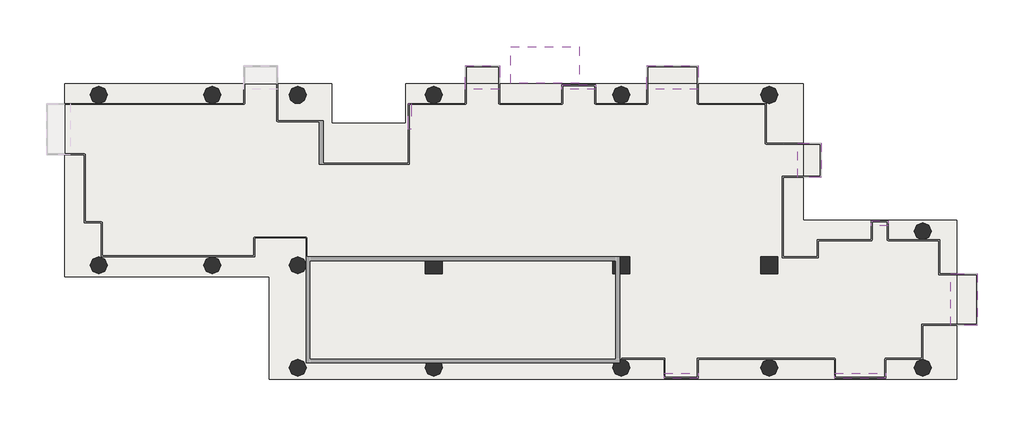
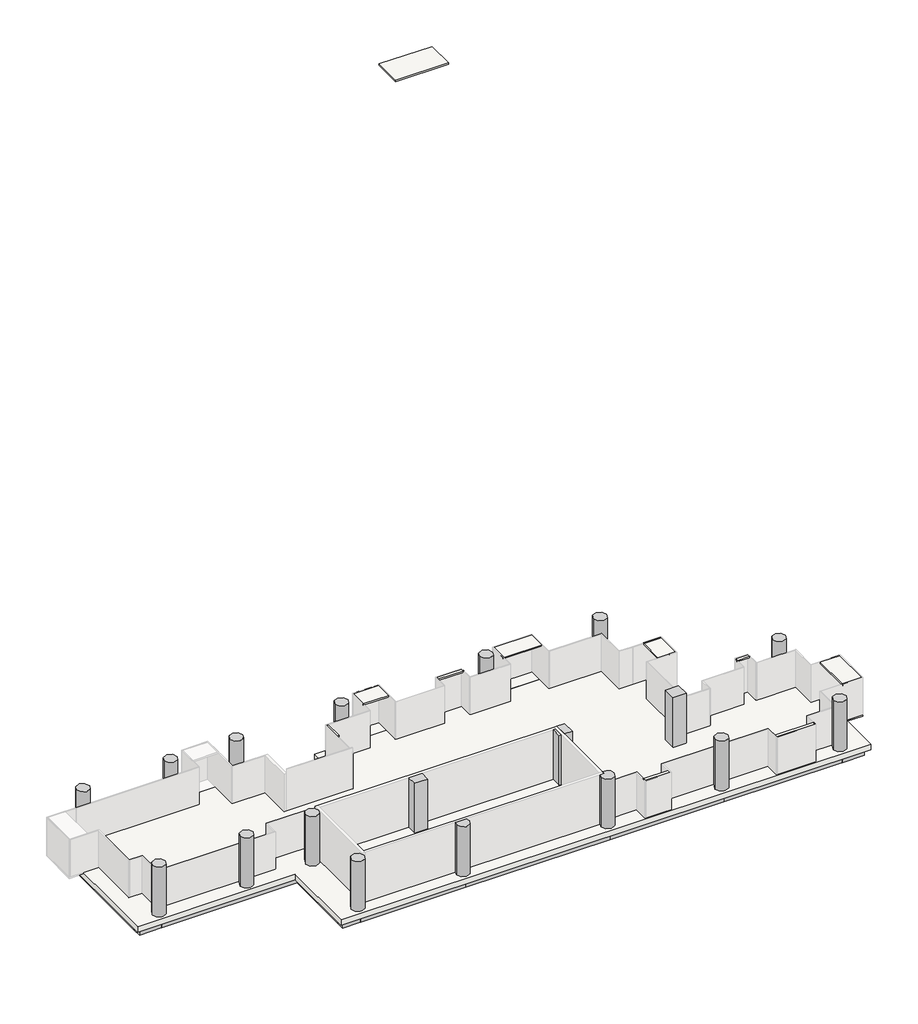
# One storey, part 2 of 2: 36 slabs, 25 beams, 18 columns.
"""IFC4 building model written with IfcOpenShell, lengths in millimetres."""

from ifc_helpers import new_model, si_unit, point, frame, frame_2d, origin, place, context, project, spatial, polyline, circle_curve, trimmed, segment, composite_curve, outline, extrude, transform, mapped, element, save
from ifc_brep_helpers import plane_surface, cylinder_surface, advanced_brep
from components import ajn_arc_ossature_rec_ba_700x600_5242ffbb, ajn_arc_ossature_rec_ba_700x600_213c05e2, ajn_arc_ossature_rec_ba_700x600_4d623bda, ajn_arc_ossature_rec_ba_700x600_c2a8f1af, ajn_arc_ossature_rec_ba_700x600_b2f97811, ajn_arc_ossature_rec_ba_700x600_e688680c, ajn_arc_ossature_rec_ba_700x600_8adee879, ajn_arc_ossature_rec_ba_700x600_6677e51c, ajn_arc_ossature_rec_ba_700x600_60e35d56, ajn_arc_ossature_rec_ba_700x600_9ae0f913, ajn_arc_ossature_rec_ba_700x600_5c14351b, ajn_arc_ossature_rec_ba_700x600_e883967f, ajn_arc_ossature_rec_ba_700x600_0984b03c, ajn_arc_ossature_rec_ba_700x600_78f846f2, ajn_arc_ossature_rec_ba_700x600_e869caa8, ajn_arc_ossature_rec_ba_700x600_0388eb48, ajn_arc_ossature_rec_ba_700x600_e143517c, ajn_arc_ossature_rec_ba_700x600_758f1bfa, ajn_arc_ossature_rec_ba_700x600_64ba80e1, ajn_arc_poteau_circulaire_a7b4f06c

model = new_model("IFC4")

# Units and contexts
model_context = context("Model", 3, world=origin())
ifc_project = project(units=[si_unit("LENGTHUNIT", "METRE", prefix="MILLI")], contexts=[model_context])

# Site, building, storey
site = spatial("IfcSite", under=ifc_project)
building = spatial("IfcBuilding", under=site)
storey = spatial("IfcBuildingStorey", under=building, Name="TW-L 05", Elevation=17199.9999686)

# Beams
placement = place(None, origin())
ajn_arc_ossature_rec_ba_700x600_shape = ajn_arc_ossature_rec_ba_700x600_5242ffbb(model_context)
element("IfcBeam", 1, ObjectType="AJN-ARC-OSSATURE REC-BA : 700x600", at=placement, inside=storey, context=model_context, shape_type="MappedRepresentation", body=[
    mapped(ajn_arc_ossature_rec_ba_700x600_shape, transform((119350.0, 39300.0, 16649.9999686), x_axis=(-1.0, 0.0, 0.0), y_axis=(0.0, -1.0, 0.0), z_axis=(0.0, 0.0, 1.0))),
])
ajn_arc_ossature_rec_ba_700x600_2_shape = ajn_arc_ossature_rec_ba_700x600_213c05e2(model_context)
element("IfcBeam", 2, ObjectType="AJN-ARC-OSSATURE REC-BA : 700x600", at=placement, inside=storey, context=model_context, shape_type="MappedRepresentation", body=[
    mapped(ajn_arc_ossature_rec_ba_700x600_2_shape, transform((100900.0, 34800.0, 16649.9999686), x_axis=(0.0, -1.0, 0.0), y_axis=(1.0, 0.0, 0.0), z_axis=(0.0, 0.0, 1.0))),
])
ajn_arc_ossature_rec_ba_700x600_3_shape = ajn_arc_ossature_rec_ba_700x600_4d623bda(model_context)
element("IfcBeam", 3, ObjectType="AJN-ARC-OSSATURE REC-BA : 700x600", at=placement, inside=storey, context=model_context, shape_type="MappedRepresentation", body=[
    mapped(ajn_arc_ossature_rec_ba_700x600_3_shape, transform((112150.0, 24900.0, 16649.9999686), x_axis=(1.0, 0.0, 0.0), y_axis=(0.0, 1.0, 0.0), z_axis=(0.0, 0.0, 1.0))),
])
ajn_arc_ossature_rec_ba_700x600_4_shape = ajn_arc_ossature_rec_ba_700x600_c2a8f1af(model_context)
element("IfcBeam", 4, ObjectType="AJN-ARC-OSSATURE REC-BA : 700x600", at=placement, inside=storey, context=model_context, shape_type="MappedRepresentation", body=[
    mapped(ajn_arc_ossature_rec_ba_700x600_4_shape, transform((116200.0, 24900.0, 16649.9999686), x_axis=(1.0, 0.0, 0.0), y_axis=(0.0, 1.0, 0.0), z_axis=(0.0, 0.0, 1.0))),
])
ajn_arc_ossature_rec_ba_700x600_5_shape = ajn_arc_ossature_rec_ba_700x600_b2f97811(model_context)
element("IfcBeam", 5, ObjectType="AJN-ARC-OSSATURE REC-BA : 700x600", at=placement, inside=storey, context=model_context, shape_type="MappedRepresentation", body=[
    mapped(ajn_arc_ossature_rec_ba_700x600_5_shape, transform((106900.0, 30300.0, 16649.9999686), x_axis=(1.0, 0.0, 0.0), y_axis=(0.0, 1.0, 0.0), z_axis=(0.0, 0.0, 1.0))),
])
ajn_arc_ossature_rec_ba_700x600_6_shape = ajn_arc_ossature_rec_ba_700x600_e688680c(model_context)
element("IfcBeam", 6, ObjectType="AJN-ARC-OSSATURE REC-BA : 700x600", at=placement, inside=storey, context=model_context, shape_type="MappedRepresentation", body=[
    mapped(ajn_arc_ossature_rec_ba_700x600_6_shape, transform((111700.0, 27600.0, 16649.9999686), x_axis=(0.0, -1.0, 0.0), y_axis=(1.0, 0.0, 0.0), z_axis=(0.0, 0.0, 1.0))),
])
ajn_arc_ossature_rec_ba_700x600_7_shape = ajn_arc_ossature_rec_ba_700x600_8adee879(model_context)
element("IfcBeam", 7, ObjectType="AJN-ARC-OSSATURE REC-BA : 700x600", at=placement, inside=storey, context=model_context, shape_type="MappedRepresentation", body=[
    mapped(ajn_arc_ossature_rec_ba_700x600_7_shape, transform((124750.0, 24900.0, 16649.9999686), x_axis=(1.0, 0.0, 0.0), y_axis=(0.0, 1.0, 0.0), z_axis=(0.0, 0.0, 1.0))),
])
element("IfcBeam", 8, ObjectType="AJN-ARC-OSSATURE REC-BA : 700x600", at=placement, inside=storey, context=model_context, shape_type="MappedRepresentation", body=[
    mapped(ajn_arc_ossature_rec_ba_700x600_7_shape, transform((124750.0, 39300.0, 16649.9999686), x_axis=(-1.0, 0.0, 0.0), y_axis=(0.0, -1.0, 0.0), z_axis=(0.0, 0.0, 1.0))),
])
ajn_arc_ossature_rec_ba_700x600_8_shape = ajn_arc_ossature_rec_ba_700x600_6677e51c(model_context)
element("IfcBeam", 9, ObjectType="AJN-ARC-OSSATURE REC-BA : 700x600", at=placement, inside=storey, context=model_context, shape_type="MappedRepresentation", body=[
    mapped(ajn_arc_ossature_rec_ba_700x600_8_shape, transform((133600.0, 24900.0, 16649.9999686), x_axis=(1.0, 0.0, 0.0), y_axis=(0.0, 1.0, 0.0), z_axis=(0.0, 0.0, 1.0))),
])
ajn_arc_ossature_rec_ba_700x600_9_shape = ajn_arc_ossature_rec_ba_700x600_60e35d56(model_context)
element("IfcBeam", 10, ObjectType="AJN-ARC-OSSATURE REC-BA : 700x600", at=placement, inside=storey, context=model_context, shape_type="MappedRepresentation", body=[
    mapped(ajn_arc_ossature_rec_ba_700x600_9_shape, transform((141550.0, 24900.0, 16649.9999686), x_axis=(1.0, 0.0, 0.0), y_axis=(0.0, 1.0, 0.0), z_axis=(0.0, 0.0, 1.0))),
])
ajn_arc_ossature_rec_ba_700x600_10_shape = ajn_arc_ossature_rec_ba_700x600_9ae0f913(model_context)
element("IfcBeam", 11, ObjectType="AJN-ARC-OSSATURE REC-BA : 700x600", at=placement, inside=storey, context=model_context, shape_type="MappedRepresentation", body=[
    mapped(ajn_arc_ossature_rec_ba_700x600_10_shape, transform((146200.0, 24900.0, 16649.9999686), x_axis=(1.0, 0.0, 0.0), y_axis=(0.0, 1.0, 0.0), z_axis=(0.0, 0.0, 1.0))),
])
element("IfcBeam", 12, ObjectType="AJN-ARC-OSSATURE REC-BA : 700x600", at=placement, inside=storey, context=model_context, shape_type="MappedRepresentation", body=[
    mapped(ajn_arc_ossature_rec_ba_700x600_10_shape, transform((101500.0, 39300.0, 16649.9999686), x_axis=(-1.0, 0.0, 0.0), y_axis=(0.0, -1.0, 0.0), z_axis=(0.0, 0.0, 1.0))),
])
ajn_arc_ossature_rec_ba_700x600_11_shape = ajn_arc_ossature_rec_ba_700x600_5c14351b(model_context)
element("IfcBeam", 13, ObjectType="AJN-ARC-OSSATURE REC-BA : 700x600", at=placement, inside=storey, context=model_context, shape_type="MappedRepresentation", body=[
    mapped(ajn_arc_ossature_rec_ba_700x600_11_shape, transform((146800.0, 28500.0, 16649.9999686), x_axis=(0.0, 1.0, 0.0), y_axis=(-1.0, 0.0, 0.0), z_axis=(0.0, 0.0, 1.0))),
])
element("IfcBeam", 14, ObjectType="AJN-ARC-OSSATURE REC-BA : 700x600", at=placement, inside=storey, context=model_context, shape_type="MappedRepresentation", body=[
    mapped(ajn_arc_ossature_rec_ba_700x600_11_shape, transform((138700.0, 35700.0, 16649.9999686), x_axis=(0.0, 1.0, 0.0), y_axis=(-1.0, 0.0, 0.0), z_axis=(0.0, 0.0, 1.0))),
])
ajn_arc_ossature_rec_ba_700x600_12_shape = ajn_arc_ossature_rec_ba_700x600_e883967f(model_context)
element("IfcBeam", 15, ObjectType="AJN-ARC-OSSATURE REC-BA : 700x600", at=placement, inside=storey, context=model_context, shape_type="MappedRepresentation", body=[
    mapped(ajn_arc_ossature_rec_ba_700x600_12_shape, transform((146200.0, 32100.0, 16649.9999686), x_axis=(-1.0, 0.0, 0.0), y_axis=(0.0, -1.0, 0.0), z_axis=(0.0, 0.0, 1.0))),
])
element("IfcBeam", 16, ObjectType="AJN-ARC-OSSATURE REC-BA : 700x600", at=placement, inside=storey, context=model_context, shape_type="MappedRepresentation", body=[
    mapped(ajn_arc_ossature_rec_ba_700x600_12_shape, transform((138100.0, 39300.0, 16649.9999686), x_axis=(-1.0, 0.0, 0.0), y_axis=(0.0, -1.0, 0.0), z_axis=(0.0, 0.0, 1.0))),
])
element("IfcBeam", 17, ObjectType="AJN-ARC-OSSATURE REC-BA : 700x600", at=placement, inside=storey, context=model_context, shape_type="MappedRepresentation", body=[
    mapped(ajn_arc_ossature_rec_ba_700x600_12_shape, transform((113200.0, 39300.0, 16649.9999686), x_axis=(-1.0, 0.0, 0.0), y_axis=(0.0, -1.0, 0.0), z_axis=(0.0, 0.0, 1.0))),
])
element("IfcBeam", 18, ObjectType="AJN-ARC-OSSATURE REC-BA : 700x600", at=placement, inside=storey, context=model_context, shape_type="MappedRepresentation", body=[
    mapped(ajn_arc_ossature_rec_ba_700x600_12_shape, transform((101500.0, 30300.0, 16649.9999686), x_axis=(1.0, 0.0, 0.0), y_axis=(0.0, 1.0, 0.0), z_axis=(0.0, 0.0, 1.0))),
])
ajn_arc_ossature_rec_ba_700x600_13_shape = ajn_arc_ossature_rec_ba_700x600_0984b03c(model_context)
element("IfcBeam", 19, ObjectType="AJN-ARC-OSSATURE REC-BA : 700x600", at=placement, inside=storey, context=model_context, shape_type="MappedRepresentation", body=[
    mapped(ajn_arc_ossature_rec_ba_700x600_13_shape, transform((142150.0, 32100.0, 16649.9999686), x_axis=(-1.0, 0.0, 0.0), y_axis=(0.0, -1.0, 0.0), z_axis=(0.0, 0.0, 1.0))),
])
ajn_arc_ossature_rec_ba_700x600_14_shape = ajn_arc_ossature_rec_ba_700x600_78f846f2(model_context)
element("IfcBeam", 20, ObjectType="AJN-ARC-OSSATURE REC-BA : 700x600", at=placement, inside=storey, context=model_context, shape_type="MappedRepresentation", body=[
    mapped(ajn_arc_ossature_rec_ba_700x600_14_shape, transform((133600.0, 39300.0, 16649.9999686), x_axis=(-1.0, 0.0, 0.0), y_axis=(0.0, -1.0, 0.0), z_axis=(0.0, 0.0, 1.0))),
])
ajn_arc_ossature_rec_ba_700x600_15_shape = ajn_arc_ossature_rec_ba_700x600_e869caa8(model_context)
element("IfcBeam", 21, ObjectType="AJN-ARC-OSSATURE REC-BA : 700x600", at=placement, inside=storey, context=model_context, shape_type="MappedRepresentation", body=[
    mapped(ajn_arc_ossature_rec_ba_700x600_15_shape, transform((118900.0, 38250.0, 16649.9999686), x_axis=(0.0, -1.0, 0.0), y_axis=(1.0, 0.0, 0.0), z_axis=(0.0, 0.0, 1.0))),
])
ajn_arc_ossature_rec_ba_700x600_16_shape = ajn_arc_ossature_rec_ba_700x600_0388eb48(model_context)
element("IfcBeam", 22, ObjectType="AJN-ARC-OSSATURE REC-BA : 700x600", at=placement, inside=storey, context=model_context, shape_type="MappedRepresentation", body=[
    mapped(ajn_arc_ossature_rec_ba_700x600_16_shape, transform((110350.0, 39300.0, 16649.9999686), x_axis=(-1.0, 0.0, 0.0), y_axis=(0.0, -1.0, 0.0), z_axis=(0.0, 0.0, 1.0))),
])
ajn_arc_ossature_rec_ba_700x600_17_shape = ajn_arc_ossature_rec_ba_700x600_e143517c(model_context)
element("IfcBeam", 23, ObjectType="AJN-ARC-OSSATURE REC-BA : 700x600", at=placement, inside=storey, context=model_context, shape_type="MappedRepresentation", body=[
    mapped(ajn_arc_ossature_rec_ba_700x600_17_shape, transform((105100.0, 39300.0, 16649.9999686), x_axis=(-1.0, 0.0, 0.0), y_axis=(0.0, -1.0, 0.0), z_axis=(0.0, 0.0, 1.0))),
])
ajn_arc_ossature_rec_ba_700x600_18_shape = ajn_arc_ossature_rec_ba_700x600_758f1bfa(model_context)
element("IfcBeam", 24, ObjectType="AJN-ARC-OSSATURE REC-BA : 700x600", at=placement, inside=storey, context=model_context, shape_type="MappedRepresentation", body=[
    mapped(ajn_arc_ossature_rec_ba_700x600_18_shape, transform((116350.0, 37200.0, 16649.9999686), x_axis=(-1.0, 0.0, 0.0), y_axis=(0.0, -1.0, 0.0), z_axis=(0.0, 0.0, 1.0))),
])
ajn_arc_ossature_rec_ba_700x600_19_shape = ajn_arc_ossature_rec_ba_700x600_64ba80e1(model_context)
element("IfcBeam", 25, ObjectType="AJN-ARC-OSSATURE REC-BA : 700x600", at=placement, inside=storey, context=model_context, shape_type="MappedRepresentation", body=[
    mapped(ajn_arc_ossature_rec_ba_700x600_19_shape, transform((113800.0, 38250.0, 16649.9999686), x_axis=(0.0, 1.0, 0.0), y_axis=(-1.0, 0.0, 0.0), z_axis=(0.0, 0.0, 1.0))),
])

# Columns
element("IfcColumn", 26, ObjectType="AJN-ARC-POTEAU CIRCULAIRE : ø90", at=placement, inside=storey, context=model_context, shape_type="SweptSolid", body=[
    extrude(outline(composite_curve([segment(trimmed(circle_curve(frame_2d((102100.0, 39300.0)), 450.0), [point((101650.0, 39300.0))], [point((102550.0, 39300.0))], False, "CARTESIAN"), True, "CONTINUOUS"), segment(trimmed(circle_curve(frame_2d((102100.0, 39300.0)), 450.0), [point((102550.0, 39300.0))], [point((101650.0, 39300.0))], False, "CARTESIAN"), True, "CONTINUOUS")], self_intersect=False)), frame((0.0, 0.0, 17199.9999686), z_axis=(0.0, 0.0, 1.0), x_axis=(1.0, 0.0, 0.0)), (0.0, 0.0, 1.0), 3600.0),
])
element("IfcColumn", 27, ObjectType="AJN-ARC-POTEAU CIRCULAIRE : ø90", at=placement, inside=storey, context=model_context, shape_type="SweptSolid", body=[
    extrude(outline(composite_curve([segment(trimmed(circle_curve(frame_2d((102100.0, 30300.0)), 450.0), [point((101650.0, 30300.0))], [point((102550.0, 30300.0))], False, "CARTESIAN"), True, "CONTINUOUS"), segment(trimmed(circle_curve(frame_2d((102100.0, 30300.0)), 450.0), [point((102550.0, 30300.0))], [point((101650.0, 30300.0))], False, "CARTESIAN"), True, "CONTINUOUS")], self_intersect=False)), frame((0.0, 0.0, 17199.9999686), z_axis=(0.0, 0.0, 1.0), x_axis=(1.0, 0.0, 0.0)), (0.0, 0.0, 1.0), 3600.0),
])
element("IfcColumn", 28, ObjectType="AJN-ARC-POTEAU CIRCULAIRE : ø90", at=placement, inside=storey, context=model_context, shape_type="SweptSolid", body=[
    extrude(outline(composite_curve([segment(trimmed(circle_curve(frame_2d((108100.0, 30300.0)), 450.0), [point((107650.0, 30300.0))], [point((108550.0, 30300.0))], False, "CARTESIAN"), True, "CONTINUOUS"), segment(trimmed(circle_curve(frame_2d((108100.0, 30300.0)), 450.0), [point((108550.0, 30300.0))], [point((107650.0, 30300.0))], False, "CARTESIAN"), True, "CONTINUOUS")], self_intersect=False)), frame((0.0, 0.0, 17199.9999686), z_axis=(0.0, 0.0, 1.0), x_axis=(1.0, 0.0, 0.0)), (0.0, 0.0, 1.0), 3600.0),
])
element("IfcColumn", 29, ObjectType="AJN-ARC-POTEAU CIRCULAIRE : ø90", at=placement, inside=storey, context=model_context, shape_type="SweptSolid", body=[
    extrude(outline(composite_curve([segment(trimmed(circle_curve(frame_2d((108100.0, 39300.0)), 450.0), [point((107650.0, 39300.0))], [point((108550.0, 39300.0))], False, "CARTESIAN"), True, "CONTINUOUS"), segment(trimmed(circle_curve(frame_2d((108100.0, 39300.0)), 450.0), [point((108550.0, 39300.0))], [point((107650.0, 39300.0))], False, "CARTESIAN"), True, "CONTINUOUS")], self_intersect=False)), frame((0.0, 0.0, 17199.9999686), z_axis=(0.0, 0.0, 1.0), x_axis=(1.0, 0.0, 0.0)), (0.0, 0.0, 1.0), 3600.0),
])
element("IfcColumn", 30, ObjectType="AJN-ARC-POTEAU CIRCULAIRE : ø90", at=placement, inside=storey, context=model_context, shape_type="SweptSolid", body=[
    extrude(outline(composite_curve([segment(trimmed(circle_curve(frame_2d((112600.0, 30300.0)), 450.0), [point((112150.0, 30300.0))], [point((113050.0, 30300.0))], False, "CARTESIAN"), True, "CONTINUOUS"), segment(trimmed(circle_curve(frame_2d((112600.0, 30300.0)), 450.0), [point((113050.0, 30300.0))], [point((112150.0, 30300.0))], False, "CARTESIAN"), True, "CONTINUOUS")], self_intersect=False)), frame((0.0, 0.0, 17199.9999686), z_axis=(0.0, 0.0, 1.0), x_axis=(1.0, 0.0, 0.0)), (0.0, 0.0, 1.0), 3600.0),
])
element("IfcColumn", 31, ObjectType="AJN-ARC-POTEAU CIRCULAIRE : ø90", at=placement, inside=storey, context=model_context, shape_type="SweptSolid", body=[
    extrude(outline(composite_curve([segment(trimmed(circle_curve(frame_2d((112600.0, 24900.0)), 450.0), [point((112150.0, 24900.0))], [point((113050.0, 24900.0))], False, "CARTESIAN"), True, "CONTINUOUS"), segment(trimmed(circle_curve(frame_2d((112600.0, 24900.0)), 450.0), [point((113050.0, 24900.0))], [point((112150.0, 24900.0))], False, "CARTESIAN"), True, "CONTINUOUS")], self_intersect=False)), frame((0.0, 0.0, 17199.9999686), z_axis=(0.0, 0.0, 1.0), x_axis=(1.0, 0.0, 0.0)), (0.0, 0.0, 1.0), 3600.0),
])
element("IfcColumn", 32, ObjectType="AJN-ARC-POTEAU CIRCULAIRE : ø90", at=placement, inside=storey, context=model_context, shape_type="SweptSolid", body=[
    extrude(outline(composite_curve([segment(trimmed(circle_curve(frame_2d((119800.0, 24900.0)), 450.0), [point((120250.0, 24900.0))], [point((119350.0, 24900.0))], False, "CARTESIAN"), True, "CONTINUOUS"), segment(trimmed(circle_curve(frame_2d((119800.0, 24900.0)), 450.0), [point((119350.0, 24900.0))], [point((119425.8342613, 25150.0))], False, "CARTESIAN"), True, "CONTINUOUS"), segment(polyline([(119425.8342613, 25150.0), (120174.1657387, 25150.0)]), True, "CONTINUOUS"), segment(trimmed(circle_curve(frame_2d((119800.0, 24900.0)), 450.0), [point((120174.1657387, 25150.0))], [point((120250.0, 24900.0))], False, "CARTESIAN"), True, "CONTINUOUS")], self_intersect=False)), frame((0.0, 0.0, 17199.9999686), z_axis=(0.0, 0.0, 1.0), x_axis=(1.0, 0.0, 0.0)), (0.0, 0.0, 1.0), 3600.0),
])
element("IfcColumn", 33, ObjectType="AJN-ARC-POTEAU CIRCULAIRE : ø90", at=placement, inside=storey, context=model_context, shape_type="SweptSolid", body=[
    extrude(outline(composite_curve([segment(trimmed(circle_curve(frame_2d((119800.0, 39300.0)), 450.0), [point((119350.0, 39300.0))], [point((120250.0, 39300.0))], False, "CARTESIAN"), True, "CONTINUOUS"), segment(trimmed(circle_curve(frame_2d((119800.0, 39300.0)), 450.0), [point((120250.0, 39300.0))], [point((119350.0, 39300.0))], False, "CARTESIAN"), True, "CONTINUOUS")], self_intersect=False)), frame((0.0, 0.0, 17199.9999686), z_axis=(0.0, 0.0, 1.0), x_axis=(1.0, 0.0, 0.0)), (0.0, 0.0, 1.0), 3600.0),
])
element("IfcColumn", 34, ObjectType="AJN-ARC-POTEAU CIRCULAIRE : ø90", at=placement, inside=storey, context=model_context, shape_type="SweptSolid", body=[
    extrude(outline(composite_curve([segment(trimmed(circle_curve(frame_2d((129700.0, 39300.0)), 450.0), [point((129250.0, 39300.0))], [point((130150.0, 39300.0))], False, "CARTESIAN"), True, "CONTINUOUS"), segment(trimmed(circle_curve(frame_2d((129700.0, 39300.0)), 450.0), [point((130150.0, 39300.0))], [point((129250.0, 39300.0))], False, "CARTESIAN"), True, "CONTINUOUS")], self_intersect=False)), frame((0.0, 0.0, 17199.9999686), z_axis=(0.0, 0.0, 1.0), x_axis=(1.0, 0.0, 0.0)), (0.0, 0.0, 1.0), 3600.0),
])
element("IfcColumn", 35, ObjectType="AJN-ARC-POTEAU CIRCULAIRE : ø90", at=placement, inside=storey, context=model_context, shape_type="SweptSolid", body=[
    extrude(outline(composite_curve([segment(trimmed(circle_curve(frame_2d((129700.0, 24900.0)), 450.0), [point((130150.0, 24900.0))], [point((129250.0, 24900.0))], False, "CARTESIAN"), True, "CONTINUOUS"), segment(trimmed(circle_curve(frame_2d((129700.0, 24900.0)), 450.0), [point((129250.0, 24900.0))], [point((129325.8342613, 25150.0))], False, "CARTESIAN"), True, "CONTINUOUS"), segment(polyline([(129325.8342613, 25150.0), (129600.0, 25150.0), (129600.0, 25338.7482194)]), True, "CONTINUOUS"), segment(trimmed(circle_curve(frame_2d((129700.0, 24900.0)), 450.0), [point((129600.0, 25338.7482194))], [point((130150.0, 24900.0))], False, "CARTESIAN"), True, "CONTINUOUS")], self_intersect=False)), frame((0.0, 0.0, 17199.9999686), z_axis=(0.0, 0.0, 1.0), x_axis=(1.0, 0.0, 0.0)), (0.0, 0.0, 1.0), 3600.0),
])
element("IfcColumn", 36, ObjectType="AJN-ARC-POTEAU CIRCULAIRE : ø90", at=placement, inside=storey, context=model_context, shape_type="SweptSolid", body=[
    extrude(outline(composite_curve([segment(trimmed(circle_curve(frame_2d((137500.0, 39300.0)), 450.0), [point((137050.0, 39300.0))], [point((137950.0, 39300.0))], False, "CARTESIAN"), True, "CONTINUOUS"), segment(trimmed(circle_curve(frame_2d((137500.0, 39300.0)), 450.0), [point((137950.0, 39300.0))], [point((137050.0, 39300.0))], False, "CARTESIAN"), True, "CONTINUOUS")], self_intersect=False)), frame((0.0, 0.0, 17199.9999686), z_axis=(0.0, 0.0, 1.0), x_axis=(1.0, 0.0, 0.0)), (0.0, 0.0, 1.0), 3600.0),
])
element("IfcColumn", 37, ObjectType="AJN-ARC-POTEAU CIRCULAIRE : ø90", at=placement, inside=storey, context=model_context, shape_type="SweptSolid", body=[
    extrude(outline(composite_curve([segment(trimmed(circle_curve(frame_2d((137500.0, 24900.0)), 450.0), [point((137050.0, 24900.0))], [point((137950.0, 24900.0))], False, "CARTESIAN"), True, "CONTINUOUS"), segment(trimmed(circle_curve(frame_2d((137500.0, 24900.0)), 450.0), [point((137950.0, 24900.0))], [point((137050.0, 24900.0))], False, "CARTESIAN"), True, "CONTINUOUS")], self_intersect=False)), frame((0.0, 0.0, 17199.9999686), z_axis=(0.0, 0.0, 1.0), x_axis=(1.0, 0.0, 0.0)), (0.0, 0.0, 1.0), 3600.0),
])
element("IfcColumn", 38, ObjectType="AJN-ARC-POTEAU CIRCULAIRE : ø90", at=placement, inside=storey, context=model_context, shape_type="SweptSolid", body=[
    extrude(outline(composite_curve([segment(trimmed(circle_curve(frame_2d((145600.0, 24900.0)), 450.0), [point((145150.0, 24900.0))], [point((146050.0, 24900.0))], False, "CARTESIAN"), True, "CONTINUOUS"), segment(trimmed(circle_curve(frame_2d((145600.0, 24900.0)), 450.0), [point((146050.0, 24900.0))], [point((145150.0, 24900.0))], False, "CARTESIAN"), True, "CONTINUOUS")], self_intersect=False)), frame((0.0, 0.0, 17199.9999686), z_axis=(0.0, 0.0, 1.0), x_axis=(1.0, 0.0, 0.0)), (0.0, 0.0, 1.0), 3600.0),
])
element("IfcColumn", 39, ObjectType="AJN-ARC-POTEAU CIRCULAIRE : ø90", at=placement, inside=storey, context=model_context, shape_type="AdvancedBrep", body=[
    advanced_brep(
    [(145150.0, 32100.0, 17199.9999686), (146050.0, 32100.0, 17199.9999686), (145638.6089983, 31651.6593424, 17199.9999686), (145561.3910017, 31651.6593424, 17199.9999686), (145150.0, 32100.0, 20799.9999686), (146050.0, 32100.0, 20799.9999686), (145561.3910017, 31651.6593424, 19899.9999686), (145638.6089983, 31651.6593424, 19899.9999686)],
    [
        (0, 1, circle_curve(frame((145600.0, 32100.0, 17199.9999686), z_axis=(0.0, 0.0, -1.0), x_axis=(1.0, 0.0, 0.0)), 450.0)),
        (1, 2, circle_curve(frame((145600.0, 32100.0, 17199.9999686), z_axis=(0.0, 0.0, -1.0), x_axis=(1.0, 0.0, 0.0)), 450.0)),
        (2, 3),
        (3, 0, circle_curve(frame((145600.0, 32100.0, 17199.9999686), z_axis=(0.0, 0.0, -1.0), x_axis=(1.0, 0.0, 0.0)), 450.0)),
        (0, 4),
        (4, 5, circle_curve(frame((145600.0, 32100.0, 20799.9999686), z_axis=(0.0, 0.0, -1.0), x_axis=(1.0, 0.0, 0.0)), 450.0)),
        (5, 1),
        (5, 4, circle_curve(frame((145600.0, 32100.0, 20799.9999686), z_axis=(0.0, 0.0, -1.0), x_axis=(1.0, 0.0, 0.0)), 450.0)),
        (3, 6),
        (6, 7, circle_curve(frame((145600.0, 32100.0, 19899.9999686), z_axis=(0.0, 0.0, 1.0), x_axis=(1.0, 0.0, 0.0)), 450.0)),
        (7, 2),
        (7, 6),
    ],
    [
        plane_surface(frame((146050.0, 32100.0, 17199.9999686), z_axis=(0.0, 0.0, -1.0), x_axis=(0.0, -1.0, 0.0))),
        cylinder_surface(frame((145600.0, 32100.0, 17199.9999686), z_axis=(0.0, 0.0, 1.0), x_axis=(1.0, 0.0, 0.0)), 450.0),
        plane_surface(frame((146050.0, 32100.0, 20799.9999686), z_axis=(0.0, 0.0, 1.0), x_axis=(0.0, 1.0, 0.0))),
        plane_surface(frame((146472.681474, 31651.6593424, 17199.9999686), z_axis=(0.0, -1.0, 0.0), x_axis=(-1.0, 0.0, 0.0))),
        plane_surface(frame((143797.755292, 31651.6593424, 19899.9999686), z_axis=(0.0, 0.0, -1.0), x_axis=(0.0, -1.0, 0.0))),
    ],
    [
        (0, [[1, 2, 3, 4]]),
        (1, [[-1, 5, 6, 7]]),
        (1, [[-7, 8, -5, -4, 9, 10, 11, -2]]),
        (2, [[-6, -8]]),
        (3, [[12, -9, -3, -11]]),
        (4, [[-12, -10]]),
    ],
),
])
ajn_arc_poteau_circulaire_shape = ajn_arc_poteau_circulaire_a7b4f06c(model_context)
element("IfcColumn", 40, ObjectType="AJN-ARC-POTEAU CIRCULAIRE : ø90", at=placement, inside=storey, context=model_context, shape_type="MappedRepresentation", body=[
    mapped(ajn_arc_poteau_circulaire_shape, transform((112600.0, 39300.0, 0.0), x_axis=(1.0, 0.0, 0.0), y_axis=(0.0, 1.0, 0.0), z_axis=(0.0, 0.0, 1.0))),
])
element("IfcColumn", 41, ObjectType="AJN-ARC-POTEAU RECTANGULAIRE : 900 mm x 900 mm", at=placement, inside=storey, context=model_context, shape_type="SweptSolid", body=[
    extrude(outline(polyline([(137950.0, 30750.0), (137950.0, 29850.0), (137050.0, 29850.0), (137050.0, 30750.0), (137950.0, 30750.0)])), frame((0.0, 0.0, 17199.9999686), z_axis=(0.0, 0.0, 1.0), x_axis=(1.0, 0.0, 0.0)), (0.0, 0.0, 1.0), 3600.0),
])
element("IfcColumn", 42, ObjectType="AJN-ARC-POTEAU RECTANGULAIRE : 900 mm x 900 mm", at=placement, inside=storey, context=model_context, shape_type="SweptSolid", body=[
    extrude(outline(polyline([(129400.0, 29850.0), (129250.0, 29850.0), (129250.0, 30550.0), (129400.0, 30550.0), (129400.0, 29850.0)])), frame((0.0, 0.0, 17199.9999686), z_axis=(0.0, 0.0, 1.0), x_axis=(1.0, 0.0, 0.0)), (0.0, 0.0, 1.0), 3600.0),
    extrude(outline(polyline([(130150.0, 30750.0), (130150.0, 29850.0), (129600.0, 29850.0), (129600.0, 30750.0), (130150.0, 30750.0)])), frame((0.0, 0.0, 17199.9999686), z_axis=(0.0, 0.0, 1.0), x_axis=(1.0, 0.0, 0.0)), (0.0, 0.0, 1.0), 3600.0),
])
element("IfcColumn", 43, ObjectType="AJN-ARC-POTEAU RECTANGULAIRE : 900 mm x 900 mm", at=placement, inside=storey, context=model_context, shape_type="SweptSolid", body=[
    extrude(outline(polyline([(120250.0, 29850.0), (119350.0, 29850.0), (119350.0, 30550.0), (120250.0, 30550.0), (120250.0, 29850.0)])), frame((0.0, 0.0, 17199.9999686), z_axis=(0.0, 0.0, 1.0), x_axis=(1.0, 0.0, 0.0)), (0.0, 0.0, 1.0), 3600.0),
])

# Slabs
element("IfcSlab", 44, ObjectType="AJN-ARC-SLAB-10cm", at=placement, inside=storey, context=model_context, shape_type="SweptSolid", body=[
    extrude(outline(polyline([(148497.681474, 27150.7949131), (147400.0, 27150.7949131), (147400.0, 29850.7949131), (148497.681474, 29850.7949131), (148497.681474, 27150.7949131)])), frame((0.0, 0.0, 17099.9999686), z_axis=(0.0, 0.0, 1.0), x_axis=(1.0, 0.0, 0.0)), (0.0, 0.0, 1.0), 100.0),
])
element("IfcSlab", 45, ObjectType="AJN-ARC-SLAB-10cm", at=placement, inside=storey, context=model_context, shape_type="SweptSolid", body=[
    extrude(outline(polyline([(140250.0, 34950.0), (139300.0, 34950.0), (139300.0, 36750.0), (140250.0, 36750.0), (140250.0, 34950.0)])), frame((0.0, 0.0, 17099.9999686), z_axis=(0.0, 0.0, 1.0), x_axis=(1.0, 0.0, 0.0)), (0.0, 0.0, 1.0), 100.0),
])
element("IfcSlab", 46, ObjectType="AJN-ARC-SLAB-10cm", at=placement, inside=storey, context=model_context, shape_type="SweptSolid", body=[
    extrude(outline(polyline([(133750.0, 39900.0), (131050.0, 39900.0), (131050.0, 40850.0), (133750.0, 40850.0), (133750.0, 39900.0)])), frame((0.0, 0.0, 17099.9999686), z_axis=(0.0, 0.0, 1.0), x_axis=(1.0, 0.0, 0.0)), (0.0, 0.0, 1.0), 100.0),
])
element("IfcSlab", 47, ObjectType="AJN-ARC-SLAB-10cm", at=placement, inside=storey, context=model_context, shape_type="SweptSolid", body=[
    extrude(outline(polyline([(123263.0639015, 39900.0), (121463.0639015, 39900.0), (121463.0639015, 40850.0), (123263.0639015, 40850.0), (123263.0639015, 39900.0)])), frame((0.0, 0.0, 17099.9999686), z_axis=(0.0, 0.0, 1.0), x_axis=(1.0, 0.0, 0.0)), (0.0, 0.0, 1.0), 100.0),
])
element("IfcSlab", 48, ObjectType="AJN-ARC-SLAB-10cm", at=placement, inside=storey, context=model_context, shape_type="SweptSolid", body=[
    extrude(outline(polyline([(123263.0639015, 39900.0), (121463.0639015, 39900.0), (121463.0639015, 40850.0), (123263.0639015, 40850.0), (123263.0639015, 39900.0)])), frame((0.0, 0.0, 17099.9999686), z_axis=(0.0, 0.0, 1.0), x_axis=(1.0, 0.0, 0.0)), (0.0, 0.0, 1.0), 100.0),
])
element("IfcSlab", 49, ObjectType="AJN-ARC-SLAB-10cm", at=placement, inside=storey, context=model_context, shape_type="SweptSolid", body=[
    extrude(outline(polyline([(123263.0639015, 39900.0), (121463.0639015, 39900.0), (121463.0639015, 40850.0), (123263.0639015, 40850.0), (123263.0639015, 39900.0)])), frame((0.0, 0.0, 17099.9999686), z_axis=(0.0, 0.0, 1.0), x_axis=(1.0, 0.0, 0.0)), (0.0, 0.0, 1.0), 100.0),
])
element("IfcSlab", 50, ObjectType="AJN-ARC-SLAB-10cm", at=placement, inside=storey, context=model_context, shape_type="SweptSolid", body=[
    extrude(outline(polyline([(123263.0639015, 39900.0), (121463.0639015, 39900.0), (121463.0639015, 40850.0), (123263.0639015, 40850.0), (123263.0639015, 39900.0)])), frame((0.0, 0.0, 17099.9999686), z_axis=(0.0, 0.0, 1.0), x_axis=(1.0, 0.0, 0.0)), (0.0, 0.0, 1.0), 100.0),
])
element("IfcSlab", 51, ObjectType="AJN-ARC-SLAB-10cm", at=placement, inside=storey, context=model_context, shape_type="SweptSolid", body=[
    extrude(outline(polyline([(123263.0639015, 39900.0), (121463.0639015, 39900.0), (121463.0639015, 40850.0), (123263.0639015, 40850.0), (123263.0639015, 39900.0)])), frame((0.0, 0.0, 17099.9999686), z_axis=(0.0, 0.0, 1.0), x_axis=(1.0, 0.0, 0.0)), (0.0, 0.0, 1.0), 100.0),
])
element("IfcSlab", 52, ObjectType="AJN-ARC-SLAB-10cm", at=placement, inside=storey, context=model_context, shape_type="SweptSolid", body=[
    extrude(outline(polyline([(123263.0639015, 39900.0), (121463.0639015, 39900.0), (121463.0639015, 40850.0), (123263.0639015, 40850.0), (123263.0639015, 39900.0)])), frame((0.0, 0.0, 17099.9999686), z_axis=(0.0, 0.0, 1.0), x_axis=(1.0, 0.0, 0.0)), (0.0, 0.0, 1.0), 100.0),
])
element("IfcSlab", 53, ObjectType="AJN-ARC-SLAB-10cm", at=placement, inside=storey, context=model_context, shape_type="SweptSolid", body=[
    extrude(outline(polyline([(123263.0639015, 39900.0), (121463.0639015, 39900.0), (121463.0639015, 40850.0), (123263.0639015, 40850.0), (123263.0639015, 39900.0)])), frame((0.0, 0.0, 17099.9999686), z_axis=(0.0, 0.0, 1.0), x_axis=(1.0, 0.0, 0.0)), (0.0, 0.0, 1.0), 100.0),
])
element("IfcSlab", 54, ObjectType="AJN-ARC-SLAB-10cm", at=placement, inside=storey, context=model_context, shape_type="SweptSolid", body=[
    extrude(outline(polyline([(123263.0639015, 39900.0), (121463.0639015, 39900.0), (121463.0639015, 40850.0), (123263.0639015, 40850.0), (123263.0639015, 39900.0)])), frame((0.0, 0.0, 17099.9999686), z_axis=(0.0, 0.0, 1.0), x_axis=(1.0, 0.0, 0.0)), (0.0, 0.0, 1.0), 100.0),
])
element("IfcSlab", 55, ObjectType="AJN-ARC-SLAB-10cm", at=placement, inside=storey, context=model_context, shape_type="SweptSolid", body=[
    extrude(outline(polyline([(123263.0639015, 39900.0), (121463.0639015, 39900.0), (121463.0639015, 40850.0), (123263.0639015, 40850.0), (123263.0639015, 39900.0)])), frame((0.0, 0.0, 17099.9999686), z_axis=(0.0, 0.0, 1.0), x_axis=(1.0, 0.0, 0.0)), (0.0, 0.0, 1.0), 100.0),
])
element("IfcSlab", 56, ObjectType="AJN-ARC-SLAB-10cm", at=placement, inside=storey, context=model_context, shape_type="SweptSolid", body=[
    extrude(outline(polyline([(123263.0639015, 39900.0), (121463.0639015, 39900.0), (121463.0639015, 40850.0), (123263.0639015, 40850.0), (123263.0639015, 39900.0)])), frame((0.0, 0.0, 17099.9999686), z_axis=(0.0, 0.0, 1.0), x_axis=(1.0, 0.0, 0.0)), (0.0, 0.0, 1.0), 100.0),
])
element("IfcSlab", 57, ObjectType="AJN-ARC-SLAB-10cm", at=placement, inside=storey, context=model_context, shape_type="SweptSolid", body=[
    extrude(outline(polyline([(123263.0639015, 39900.0), (121463.0639015, 39900.0), (121463.0639015, 40850.0), (123263.0639015, 40850.0), (123263.0639015, 39900.0)])), frame((0.0, 0.0, 17099.9999686), z_axis=(0.0, 0.0, 1.0), x_axis=(1.0, 0.0, 0.0)), (0.0, 0.0, 1.0), 100.0),
])
element("IfcSlab", 58, ObjectType="AJN-ARC-SLAB-10cm", at=placement, inside=storey, context=model_context, shape_type="SweptSolid", body=[
    extrude(outline(polyline([(123263.0639015, 39900.0), (121463.0639015, 39900.0), (121463.0639015, 40850.0), (123263.0639015, 40850.0), (123263.0639015, 39900.0)])), frame((0.0, 0.0, 17099.9999686), z_axis=(0.0, 0.0, 1.0), x_axis=(1.0, 0.0, 0.0)), (0.0, 0.0, 1.0), 100.0),
])
element("IfcSlab", 59, ObjectType="AJN-ARC-SLAB-10cm", at=placement, inside=storey, context=model_context, shape_type="SweptSolid", body=[
    extrude(outline(polyline([(123263.0639015, 39900.0), (121463.0639015, 39900.0), (121463.0639015, 40850.0), (123263.0639015, 40850.0), (123263.0639015, 39900.0)])), frame((0.0, 0.0, 17099.9999686), z_axis=(0.0, 0.0, 1.0), x_axis=(1.0, 0.0, 0.0)), (0.0, 0.0, 1.0), 100.0),
])
element("IfcSlab", 60, ObjectType="AJN-ARC-SLAB-10cm", at=placement, inside=storey, context=model_context, shape_type="SweptSolid", body=[
    extrude(outline(polyline([(123263.0639015, 39900.0), (121463.0639015, 39900.0), (121463.0639015, 40850.0), (123263.0639015, 40850.0), (123263.0639015, 39900.0)])), frame((0.0, 0.0, 17099.9999686), z_axis=(0.0, 0.0, 1.0), x_axis=(1.0, 0.0, 0.0)), (0.0, 0.0, 1.0), 100.0),
])
element("IfcSlab", 61, ObjectType="AJN-ARC-SLAB-10cm", at=placement, inside=storey, context=model_context, shape_type="SweptSolid", body=[
    extrude(outline(polyline([(143650.0711147, 24350.0), (140950.0711147, 24350.0), (140950.0711147, 24600.0), (143650.0711147, 24600.0), (143650.0711147, 24350.0)])), frame((0.0, 0.0, 19799.9999686), z_axis=(0.0, 0.0, 1.0), x_axis=(1.0, 0.0, 0.0)), (0.0, 0.0, 1.0), 100.0),
])
element("IfcSlab", 62, ObjectType="AJN-ARC-SLAB-10cm", at=placement, inside=storey, context=model_context, shape_type="SweptSolid", body=[
    extrude(outline(polyline([(148497.681474, 27150.7949131), (147100.0, 27150.7949131), (147100.0, 29850.7949131), (148497.681474, 29850.7949131), (148497.681474, 27150.7949131)])), frame((0.0, 0.0, 19799.9999686), z_axis=(0.0, 0.0, 1.0), x_axis=(1.0, 0.0, 0.0)), (0.0, 0.0, 1.0), 100.0),
])
element("IfcSlab", 63, ObjectType="AJN-ARC-SLAB-10cm", at=placement, inside=storey, context=model_context, shape_type="SweptSolid", body=[
    extrude(outline(polyline([(118600.0, 37500.0), (118450.0, 37500.0), (118450.0, 38850.0), (118600.0, 38850.0), (118600.0, 37500.0)])), frame((0.0, 0.0, 19799.9999686), z_axis=(0.0, 0.0, 1.0), x_axis=(1.0, 0.0, 0.0)), (0.0, 0.0, 1.0), 100.0),
])
element("IfcSlab", 64, ObjectType="AJN-ARC-SLAB-10cm", at=placement, inside=storey, context=model_context, shape_type="SweptSolid", body=[
    extrude(outline(polyline([(133750.0, 39600.0), (131050.0, 39600.0), (131050.0, 40850.0), (133750.0, 40850.0), (133750.0, 39600.0)])), frame((0.0, 0.0, 19799.9999686), z_axis=(0.0, 0.0, 1.0), x_axis=(1.0, 0.0, 0.0)), (0.0, 0.0, 1.0), 100.0),
])
element("IfcSlab", 65, ObjectType="AJN-ARC-SLAB-10cm", at=placement, inside=storey, context=model_context, shape_type="SweptSolid", body=[
    extrude(outline(polyline([(123263.0639015, 39600.0), (121463.0639015, 39600.0), (121463.0639015, 40850.0), (123263.0639015, 40850.0), (123263.0639015, 39600.0)])), frame((0.0, 0.0, 19799.9999686), z_axis=(0.0, 0.0, 1.0), x_axis=(1.0, 0.0, 0.0)), (0.0, 0.0, 1.0), 100.0),
])
element("IfcSlab", 66, ObjectType="AJN-ARC-SLAB-10cm", at=placement, inside=storey, context=model_context, shape_type="SweptSolid", body=[
    extrude(outline(polyline([(143797.755292, 32400.0), (142897.755292, 32400.0), (142897.755292, 32651.6593424), (143797.755292, 32651.6593424), (143797.755292, 32400.0)])), frame((0.0, 0.0, 19799.9999686), z_axis=(0.0, 0.0, 1.0), x_axis=(1.0, 0.0, 0.0)), (0.0, 0.0, 1.0), 100.0),
])
element("IfcSlab", 67, ObjectType="AJN-ARC-SLAB-10cm", at=placement, inside=storey, context=model_context, shape_type="SweptSolid", body=[
    extrude(outline(polyline([(140250.0, 34950.0), (139000.0, 34950.0), (139000.0, 36750.0), (140250.0, 36750.0), (140250.0, 34950.0)])), frame((0.0, 0.0, 19799.9999686), z_axis=(0.0, 0.0, 1.0), x_axis=(1.0, 0.0, 0.0)), (0.0, 0.0, 1.0), 100.0),
])
element("IfcSlab", 68, ObjectType="AJN-ARC-SLAB-10cm", at=placement, inside=storey, context=model_context, shape_type="SweptSolid", body=[
    extrude(outline(polyline([(128350.0, 39600.0), (126550.0, 39600.0), (126550.0, 39850.0), (128350.0, 39850.0), (128350.0, 39600.0)])), frame((0.0, 0.0, 19799.9999686), z_axis=(0.0, 0.0, 1.0), x_axis=(1.0, 0.0, 0.0)), (0.0, 0.0, 1.0), 100.0),
])
element("IfcSlab", 69, ObjectType="AJN-ARC-SLAB-10cm", at=placement, inside=storey, context=model_context, shape_type="SweptSolid", body=[
    extrude(outline(polyline([(133750.3417807, 24350.0), (131950.3417807, 24350.0), (131950.3417807, 24600.0), (133750.3417807, 24600.0), (133750.3417807, 24350.0)])), frame((0.0, 0.0, 19799.9999686), z_axis=(0.0, 0.0, 1.0), x_axis=(1.0, 0.0, 0.0)), (0.0, 0.0, 1.0), 100.0),
])
element("IfcSlab", 70, ObjectType="AJN-ARC-SLAB-10cm", at=placement, inside=storey, context=model_context, shape_type="SweptSolid", body=[
    extrude(outline(polyline([(133750.3417807, 24350.0), (131950.3417807, 24350.0), (131950.3417807, 24600.0), (133750.3417807, 24600.0), (133750.3417807, 24350.0)])), frame((0.0, 0.0, 19799.9999686), z_axis=(0.0, 0.0, 1.0), x_axis=(1.0, 0.0, 0.0)), (0.0, 0.0, 1.0), 100.0),
])
element("IfcSlab", 71, ObjectType="AJN-ARC-SLAB-10cm", at=placement, inside=storey, context=model_context, shape_type="SweptSolid", body=[
    extrude(outline(polyline([(133750.3417807, 24350.0), (131950.3417807, 24350.0), (131950.3417807, 24600.0), (133750.3417807, 24600.0), (133750.3417807, 24350.0)])), frame((0.0, 0.0, 19799.9999686), z_axis=(0.0, 0.0, 1.0), x_axis=(1.0, 0.0, 0.0)), (0.0, 0.0, 1.0), 100.0),
])
element("IfcSlab", 72, ObjectType="AJN-ARC-SLAB-10cm", at=placement, inside=storey, context=model_context, shape_type="SweptSolid", body=[
    extrude(outline(polyline([(133750.3417807, 24350.0), (131950.3417807, 24350.0), (131950.3417807, 24600.0), (133750.3417807, 24600.0), (133750.3417807, 24350.0)])), frame((0.0, 0.0, 19799.9999686), z_axis=(0.0, 0.0, 1.0), x_axis=(1.0, 0.0, 0.0)), (0.0, 0.0, 1.0), 100.0),
])
element("IfcSlab", 73, ObjectType="AJN-ARC-SLAB-10cm", at=placement, inside=storey, context=model_context, shape_type="SweptSolid", body=[
    extrude(outline(polyline([(133750.3417807, 24350.0), (131950.3417807, 24350.0), (131950.3417807, 24600.0), (133750.3417807, 24600.0), (133750.3417807, 24350.0)])), frame((0.0, 0.0, 19799.9999686), z_axis=(0.0, 0.0, 1.0), x_axis=(1.0, 0.0, 0.0)), (0.0, 0.0, 1.0), 100.0),
])
element("IfcSlab", 74, ObjectType="AJN-ARC-SLAB-10cm", at=placement, inside=storey, context=model_context, shape_type="SweptSolid", body=[
    extrude(outline(polyline([(133750.3417807, 24350.0), (131950.3417807, 24350.0), (131950.3417807, 24600.0), (133750.3417807, 24600.0), (133750.3417807, 24350.0)])), frame((0.0, 0.0, 19799.9999686), z_axis=(0.0, 0.0, 1.0), x_axis=(1.0, 0.0, 0.0)), (0.0, 0.0, 1.0), 100.0),
])
element("IfcSlab", 75, ObjectType="AJN-ARC-SLAB-10cm", at=placement, inside=storey, context=model_context, shape_type="SweptSolid", body=[
    extrude(outline(polyline([(133750.3417807, 24350.0), (131950.3417807, 24350.0), (131950.3417807, 24600.0), (133750.3417807, 24600.0), (133750.3417807, 24350.0)])), frame((0.0, 0.0, 19799.9999686), z_axis=(0.0, 0.0, 1.0), x_axis=(1.0, 0.0, 0.0)), (0.0, 0.0, 1.0), 100.0),
])
element("IfcSlab", 76, ObjectType="AJN-ARC-SLAB-10cm", at=placement, inside=storey, context=model_context, shape_type="SweptSolid", body=[
    extrude(outline(polyline([(133750.3417807, 24350.0), (131950.3417807, 24350.0), (131950.3417807, 24600.0), (133750.3417807, 24600.0), (133750.3417807, 24350.0)])), frame((0.0, 0.0, 19799.9999686), z_axis=(0.0, 0.0, 1.0), x_axis=(1.0, 0.0, 0.0)), (0.0, 0.0, 1.0), 100.0),
])
element("IfcSlab", 77, ObjectType="AJN-ARC-SLAB-10cm", at=placement, inside=storey, context=model_context, shape_type="SweptSolid", body=[
    extrude(outline(polyline([(133750.3417807, 24350.0), (131950.3417807, 24350.0), (131950.3417807, 24600.0), (133750.3417807, 24600.0), (133750.3417807, 24350.0)])), frame((0.0, 0.0, 19799.9999686), z_axis=(0.0, 0.0, 1.0), x_axis=(1.0, 0.0, 0.0)), (0.0, 0.0, 1.0), 100.0),
])
element("IfcSlab", 78, ObjectType="AJN-ARC-SLAB-10cm", at=placement, inside=storey, context=model_context, shape_type="SweptSolid", body=[
    extrude(outline(polyline([(127463.0639015, 39900.0), (123863.0639015, 39900.0), (123863.0639015, 41850.0), (127463.0639015, 41850.0), (127463.0639015, 39900.0)])), frame((0.0, 0.0, 63900.0), z_axis=(0.0, 0.0, 1.0), x_axis=(1.0, 0.0, 0.0)), (0.0, 0.0, 1.0), 100.0),
])
element("IfcSlab", 79, ObjectType="AJN-ARC-SLAB-40cm", at=placement, inside=storey, context=model_context, shape_type="SweptSolid", body=[
    extrude(outline(polyline([(147400.0, 24300.0), (111100.0, 24300.0), (111100.0, 29700.0), (100300.0, 29700.0), (100300.0, 39900.0), (114400.0, 39900.0), (114400.0, 37800.0), (118300.0, 37800.0), (118300.0, 39900.0), (139300.0, 39900.0), (139300.0, 32700.0), (147400.0, 32700.0), (147400.0, 24300.0)])), frame((0.0, 0.0, 16799.9999686), z_axis=(0.0, 0.0, 1.0), x_axis=(1.0, 0.0, 0.0)), (0.0, 0.0, 1.0), 400.0),
])

save(model, "model.ifc")
